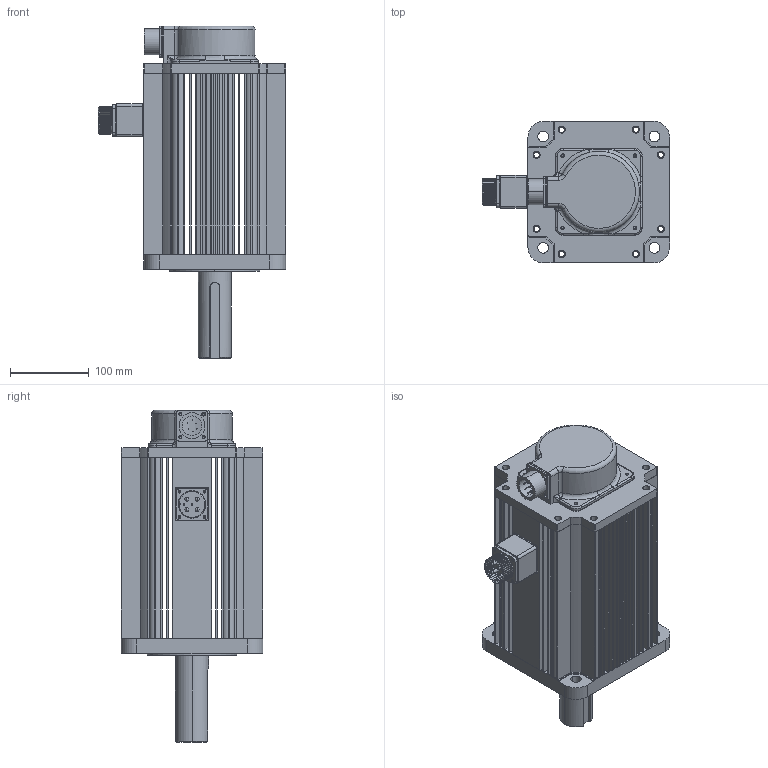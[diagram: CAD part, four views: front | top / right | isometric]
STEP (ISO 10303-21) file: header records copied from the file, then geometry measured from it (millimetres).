
FILE_DESCRIPTION (( 'STEP AP203' ), '1' );
FILE_NAME ('MS6H-180CN15BZ2-45P5.STEP', '2023-12-26T03:08:51', ( '' ), ( '' ), 'SwSTEP 2.0', 'SolidWorks 2022', '' );
FILE_SCHEMA (( 'CONFIG_CONTROL_DESIGN' ));
Length unit declared in the file: millimetre
Products named in the file (1): MS6H-180CN15BZ2-45P5
Bounding box: 237.9 x 180 x 422 mm (x, y, z)
Surface area: 470593.7 mm2 (no closed solid volume)
Topology: 0 solids, 19 shells, 749 faces, 2272 edges, 1527 vertices
Faces by surface type: cylinder 312, plane 307, torus 73, bspline 30, sphere 14, cone 13
Entity records: 32268 total; most frequent: CARTESIAN_POINT 12065, DIRECTION 4371, ORIENTED_EDGE 3861, EDGE_CURVE 2244, AXIS2_PLACEMENT_3D 1611, VERTEX_POINT 1515, LINE 1149, VECTOR 1149
